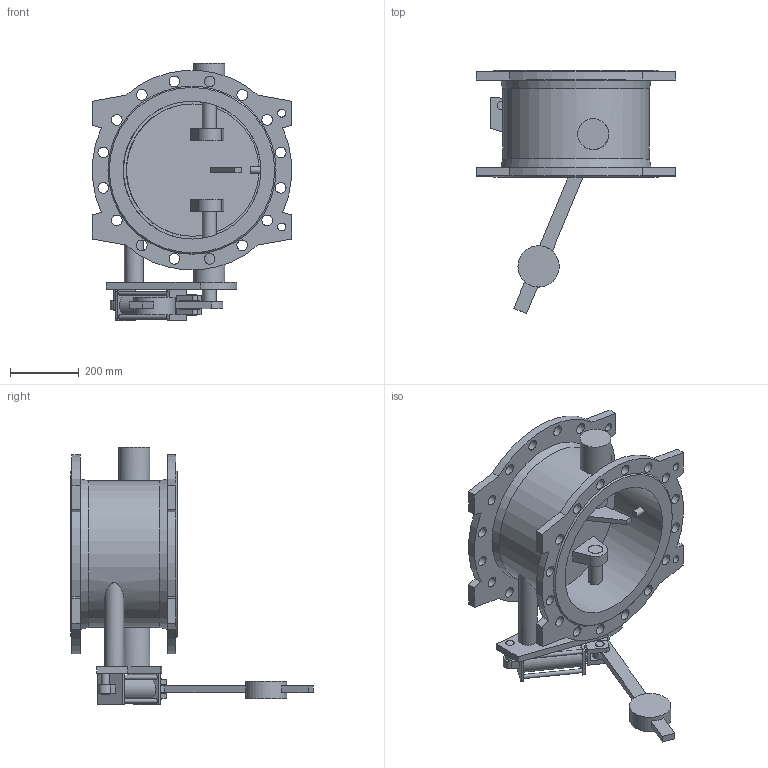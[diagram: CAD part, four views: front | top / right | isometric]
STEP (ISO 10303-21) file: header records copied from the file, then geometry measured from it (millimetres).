
FILE_DESCRIPTION(('STEP AP203'), '1');
FILE_NAME('Êëàïàí 015F.PV DN400 PN16 ñ ïðîòèâîâåñîì ñ äåìïôåðîì', '', ('UNSPECIFIED'), ('UNSPECIFIED'), 'ASCON STEP Converter 1.6', 'ASCON Math Kernel', '');
FILE_SCHEMA(('CONFIG_CONTROL_DESIGN'));
Length unit declared in the file: millimetre
Bounding box: 580 x 705 x 747 mm (x, y, z)
Volume: 18810035.7 mm3; surface area: 2227322.9 mm2
Topology: 1 solids, 1 shells, 199 faces, 496 edges, 328 vertices
Faces by surface type: plane 100, cylinder 90, cone 4, extrusion 2, torus 2, bspline 1
Full cylindrical faces by diameter (mm): 12 x4, 14 x1, 18 x2, 20 x1, 23 x4, 24 x7, 31 x32, 35 x1, 40 x3, 42 x2, 55 x1, 70 x1, 90 x2, 120 x1, 400 x1, 426 x1
Entity records: 9218 total; most frequent: CARTESIAN_POINT 2808, DIRECTION 974, ORIENTED_EDGE 840, EDGE_CURVE 420, EDGE_LOOP 397, AXIS2_PLACEMENT_3D 379, VERTEX_POINT 327, FACE_BOUND 257
